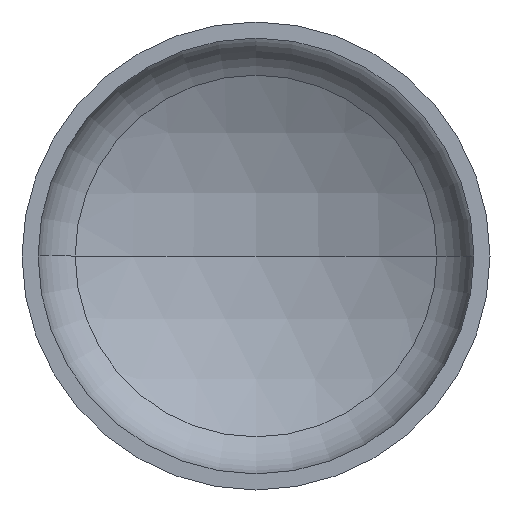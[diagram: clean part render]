
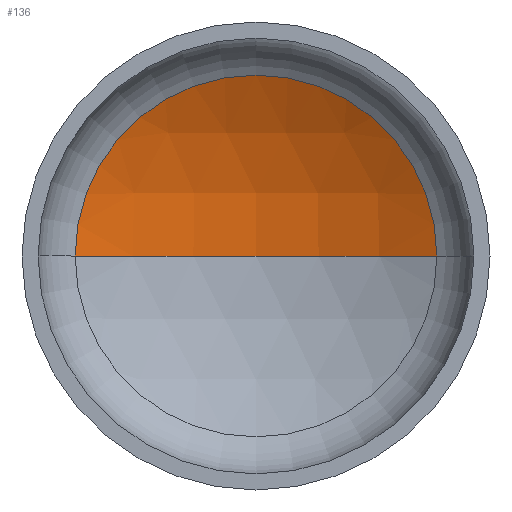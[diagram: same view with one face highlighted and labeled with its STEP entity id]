
A CAD part, front view. The second image highlights one B-rep face of the part: STEP entity #136.
In plain terms, the highlighted spherical face has radius 2560 mm.
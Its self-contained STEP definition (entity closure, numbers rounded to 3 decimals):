
#2 = DIRECTION ( 'NONE',  ( -1., 0., 0. ) ) ;
#4 = ORIENTED_EDGE ( 'NONE', *, *, #74, .F. ) ;
#37 = AXIS2_PLACEMENT_3D ( 'NONE', #282, #135, #2 ) ;
#46 = EDGE_CURVE ( 'NONE', #180, #47, #408, .T. ) ;
#47 = VERTEX_POINT ( 'NONE', #315 ) ;
#74 = EDGE_CURVE ( 'NONE', #180, #118, #260, .T. ) ;
#89 = CARTESIAN_POINT ( 'NONE',  ( 0., 822.571, 0. ) ) ;
#100 = EDGE_CURVE ( 'NONE', #47, #118, #324, .T. ) ;
#118 = VERTEX_POINT ( 'NONE', #298 ) ;
#131 = ORIENTED_EDGE ( 'NONE', *, *, #100, .T. ) ;
#135 = DIRECTION ( 'NONE',  ( 0., 0., -1. ) ) ;
#136 = ADVANCED_FACE ( 'NONE', ( #255 ), #314, .F. ) ;
#158 = CARTESIAN_POINT ( 'NONE',  ( 0., -1737.429, 0. ) ) ;
#159 = DIRECTION ( 'NONE',  ( 0., 0., 1. ) ) ;
#180 = VERTEX_POINT ( 'NONE', #89 ) ;
#206 = ORIENTED_EDGE ( 'NONE', *, *, #46, .T. ) ;
#209 = AXIS2_PLACEMENT_3D ( 'NONE', #311, #309, #308 ) ;
#255 = FACE_OUTER_BOUND ( 'NONE', #363, .T. ) ;
#260 = CIRCLE ( 'NONE', #302, 2560. ) ;
#282 = CARTESIAN_POINT ( 'NONE',  ( 0., -1737.429, 0. ) ) ;
#293 = DIRECTION ( 'NONE',  ( 0., -1., 0. ) ) ;
#295 = CARTESIAN_POINT ( 'NONE',  ( 0., 504.029, 0. ) ) ;
#298 = CARTESIAN_POINT ( 'NONE',  ( -1236.715, 504.029, 0. ) ) ;
#302 = AXIS2_PLACEMENT_3D ( 'NONE', #158, #159, #319 ) ;
#308 = DIRECTION ( 'NONE',  ( -1., 0., 0. ) ) ;
#309 = DIRECTION ( 'NONE',  ( 0., 0., -1. ) ) ;
#311 = CARTESIAN_POINT ( 'NONE',  ( 0., -1737.429, 0. ) ) ;
#314 = SPHERICAL_SURFACE ( 'NONE', #37, 2560. ) ;
#315 = CARTESIAN_POINT ( 'NONE',  ( 1236.715, 504.029, 0. ) ) ;
#319 = DIRECTION ( 'NONE',  ( 1., 0., 0. ) ) ;
#324 = CIRCLE ( 'NONE', #334, 1236.715 ) ;
#334 = AXIS2_PLACEMENT_3D ( 'NONE', #295, #293, #368 ) ;
#363 = EDGE_LOOP ( 'NONE', ( #4, #206, #131 ) ) ;
#368 = DIRECTION ( 'NONE',  ( 1., 0., 0. ) ) ;
#408 = CIRCLE ( 'NONE', #209, 2560. ) ;
